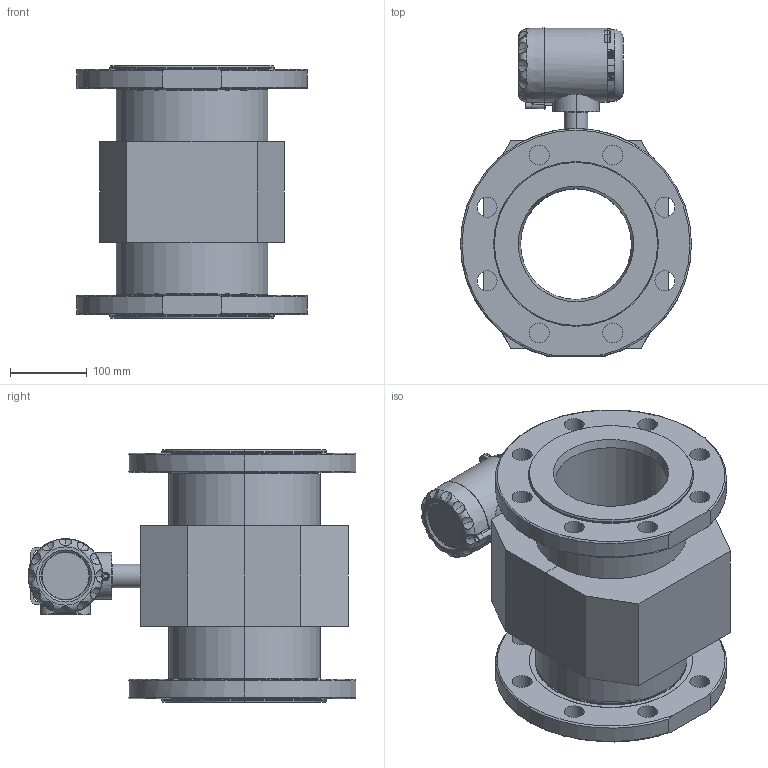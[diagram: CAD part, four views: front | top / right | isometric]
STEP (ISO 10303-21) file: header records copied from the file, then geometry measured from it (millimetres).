
FILE_DESCRIPTION (( 'STEP AP214' ), '1' );
FILE_NAME ('ﾏ頸褞ⅴ ﾏﾐﾎ150.STEP', '2021-07-23T12:48:01', ( '' ), ( '' ), 'SwSTEP 2.0', 'SolidWorks 2016', '' );
FILE_SCHEMA (( 'AUTOMOTIVE_DESIGN' ));
Length unit declared in the file: millimetre
Products named in the file (1): ﾏ頸褞ⅴ ﾏﾐﾎ150
Bounding box: 300 x 425.84 x 328 mm (x, y, z)
Surface area: 770701.1 mm2 (no closed solid volume)
Topology: 0 solids, 24 shells, 427 faces, 1475 edges, 1045 vertices
Faces by surface type: plane 146, cylinder 112, cone 112, torus 49, bspline 8
Entity records: 22875 total; most frequent: CARTESIAN_POINT 5637, DIRECTION 2729, ORIENTED_EDGE 2270, EDGE_CURVE 1475, VERTEX_POINT 1045, AXIS2_PLACEMENT_3D 1044, LINE 641, VECTOR 641
